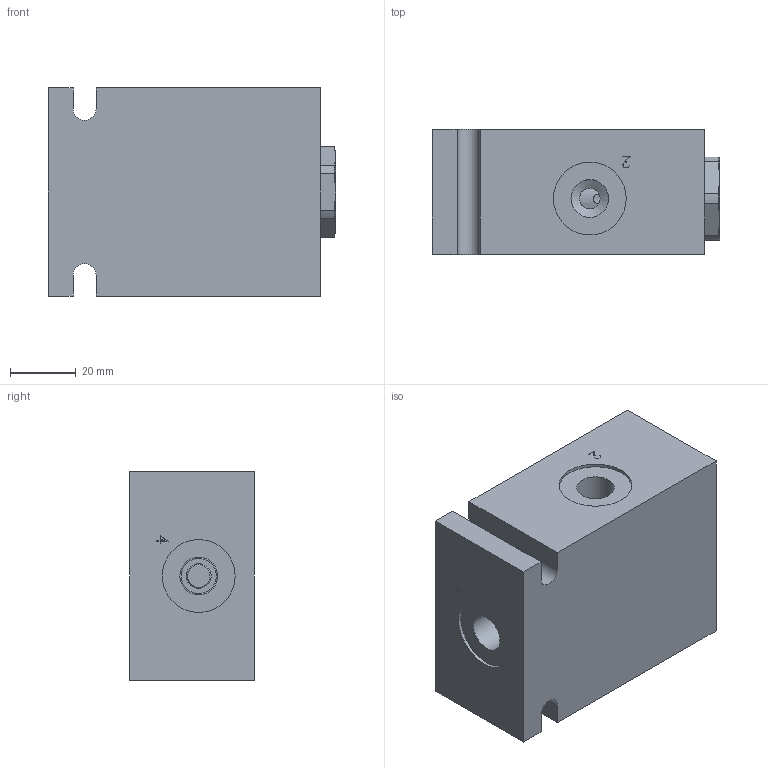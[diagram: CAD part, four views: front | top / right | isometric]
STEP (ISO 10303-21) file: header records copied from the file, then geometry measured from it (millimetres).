
FILE_DESCRIPTION( ( 'Unknown' ), '1' );
FILE_NAME( 'G:/Graphic Design/Graphic Design 2/Data Sheets/MANUAL_MECH OPERATED VALVES/4_STEP/Double Pilot Operated Check Valves/D-DGCDP00-A4.stp', 'Unknown', ( 'Unknown' ), ( 'Unknown' ), 'PSStep 16.0.42', 'Unknown', ' ' );
FILE_SCHEMA( ( 'AUTOMOTIVE_DESIGN { 1 0 10303 214 1 1 1 1 }' ) );
Length unit declared in the file: millimetre
Products named in the file (8): DGCDP00; DGCDP00-3D Full1; DGCDP00-3D Full2; DGCDP00-3D Full3; DGCDP00-3D Full4; DGCDP00-3D Full5; Assem1; B-DDGA4
Assembly tree (7 placements, depth 3):
  Assem1
    B-DDGA4
    DGCDP00
      DGCDP00-3D Full1
      DGCDP00-3D Full2
      DGCDP00-3D Full3
      DGCDP00-3D Full4
      DGCDP00-3D Full5
Bounding box: 87.56 x 38.1 x 63.5 mm (x, y, z)
Surface area: 37577.2 mm2 (no closed solid volume)
Topology: 0 solids, 265 shells, 265 faces, 1142 edges, 1024 vertices
Faces by surface type: plane 134, cylinder 78, cone 45, torus 8
Full cylindrical faces by diameter (mm): 0.2 x4, 2.794 x8, 3.048 x6, 3.454 x8, 6.3 x2, 7.099 x1, 7.582 x1, 10.681 x1, 10.719 x1, 11 x1, 11.5 x7, 12.205 x1, 12.7 x1, 12.954 x1, 13.449 x1, 14 x1, 14.592 x2, 15.735 x2, 15.875 x4, 15.9 x1, 16.167 x1, 17.323 x1, 17.374 x2, 17.501 x1, 18.948 x2, 19.075 x1, 19.622 x1, 20.262 x2, 22.22 x4, 30.175 x1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
Entity records: 17270 total; most frequent: CARTESIAN_POINT 7514, DIRECTION 1358, VERTEX_POINT 992, ORIENTED_EDGE 988, EDGE_CURVE 988, AXIS2_PLACEMENT_3D 556, FACE_BOUND 452, EDGE_LOOP 448
